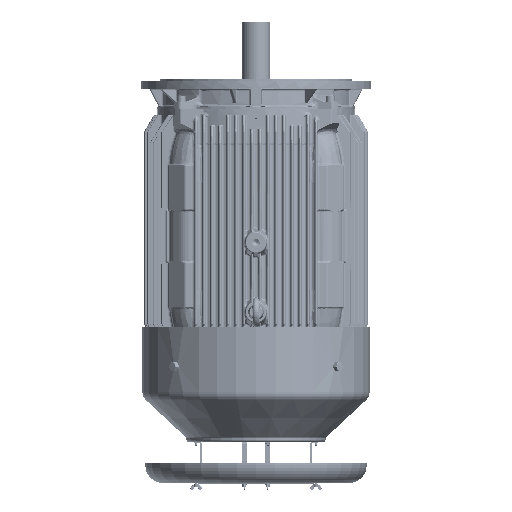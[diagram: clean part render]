
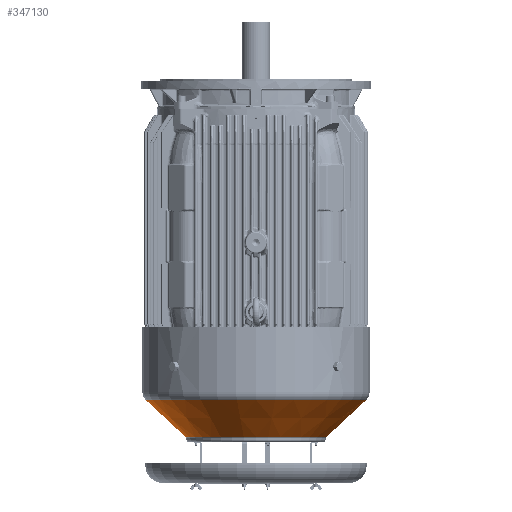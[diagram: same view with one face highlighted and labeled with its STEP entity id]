
A CAD part, front view. The second image highlights one B-rep face of the part: STEP entity #347130.
In plain terms, the highlighted conical face has half-angle 47 degrees and reference radius 202.544 mm.
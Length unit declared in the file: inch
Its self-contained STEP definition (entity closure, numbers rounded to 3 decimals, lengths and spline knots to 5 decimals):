
#2242 = FACE_OUTER_BOUND ( 'NONE', #303871, .T. ) ;
#19532 = EDGE_CURVE ( 'NONE', #578035, #226278, #166995, .T. ) ;
#22447 = CARTESIAN_POINT ( 'NONE',  ( 12.45905, 0., -18.49985 ) ) ;
#56665 = DIRECTION ( 'NONE',  ( 1., 0., 0. ) ) ;
#85895 = VERTEX_POINT ( 'NONE', #345542 ) ;
#118488 = CARTESIAN_POINT ( 'NONE',  ( 7.97417, 0., -22.68207 ) ) ;
#142189 = CARTESIAN_POINT ( 'NONE',  ( 0., 0., -22.68207 ) ) ;
#150257 = CIRCLE ( 'NONE', #246370, 7.97417 ) ;
#155783 = AXIS2_PLACEMENT_3D ( 'NONE', #142189, #545377, #496331 ) ;
#163920 = ORIENTED_EDGE ( 'NONE', *, *, #331298, .F. ) ;
#166995 = LINE ( 'NONE', #637235, #430009 ) ;
#176286 = DIRECTION ( 'NONE',  ( 0.731, 0., 0.682 ) ) ;
#209753 = AXIS2_PLACEMENT_3D ( 'NONE', #412725, #613353, #56665 ) ;
#221631 = CARTESIAN_POINT ( 'NONE',  ( 0., 0., -22.68207 ) ) ;
#225090 = CONICAL_SURFACE ( 'NONE', #155783, 7.97417, 0.82 ) ;
#226278 = VERTEX_POINT ( 'NONE', #22447 ) ;
#234206 = VERTEX_POINT ( 'NONE', #368814 ) ;
#243445 = EDGE_CURVE ( 'NONE', #234206, #578035, #150257, .T. ) ;
#246370 = AXIS2_PLACEMENT_3D ( 'NONE', #221631, #584587, #631392 ) ;
#303871 = EDGE_LOOP ( 'NONE', ( #326648, #371878, #570128, #163920 ) ) ;
#326648 = ORIENTED_EDGE ( 'NONE', *, *, #354539, .F. ) ;
#331298 = EDGE_CURVE ( 'NONE', #85895, #226278, #612399, .T. ) ;
#345542 = CARTESIAN_POINT ( 'NONE',  ( -12.45905, 0., -18.49985 ) ) ;
#347130 = ADVANCED_FACE ( 'NONE', ( #2242 ), #225090, .T. ) ;
#354539 = EDGE_CURVE ( 'NONE', #234206, #85895, #443055, .T. ) ;
#368814 = CARTESIAN_POINT ( 'NONE',  ( -7.97417, 0., -22.68207 ) ) ;
#369932 = DIRECTION ( 'NONE',  ( -0.731, 0., 0.682 ) ) ;
#371878 = ORIENTED_EDGE ( 'NONE', *, *, #243445, .T. ) ;
#412725 = CARTESIAN_POINT ( 'NONE',  ( 0., 0., -18.49985 ) ) ;
#430009 = VECTOR ( 'NONE', #176286, 39.37008 ) ;
#443055 = LINE ( 'NONE', #635049, #475191 ) ;
#475191 = VECTOR ( 'NONE', #369932, 39.37008 ) ;
#496331 = DIRECTION ( 'NONE',  ( 1., 0., 0. ) ) ;
#545377 = DIRECTION ( 'NONE',  ( 0., 0., 1. ) ) ;
#570128 = ORIENTED_EDGE ( 'NONE', *, *, #19532, .T. ) ;
#578035 = VERTEX_POINT ( 'NONE', #118488 ) ;
#584587 = DIRECTION ( 'NONE',  ( 0., 0., 1. ) ) ;
#612399 = CIRCLE ( 'NONE', #209753, 12.45905 ) ;
#613353 = DIRECTION ( 'NONE',  ( 0., 0., 1. ) ) ;
#631392 = DIRECTION ( 'NONE',  ( 1., 0., 0. ) ) ;
#635049 = CARTESIAN_POINT ( 'NONE',  ( -7.97417, 0., -22.68207 ) ) ;
#637235 = CARTESIAN_POINT ( 'NONE',  ( 7.97417, 0., -22.68207 ) ) ;
